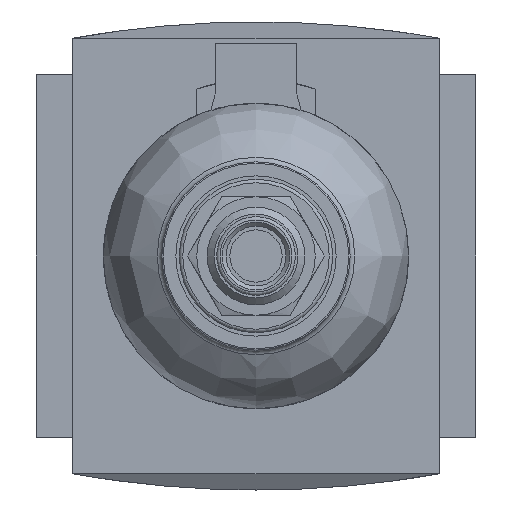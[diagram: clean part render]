
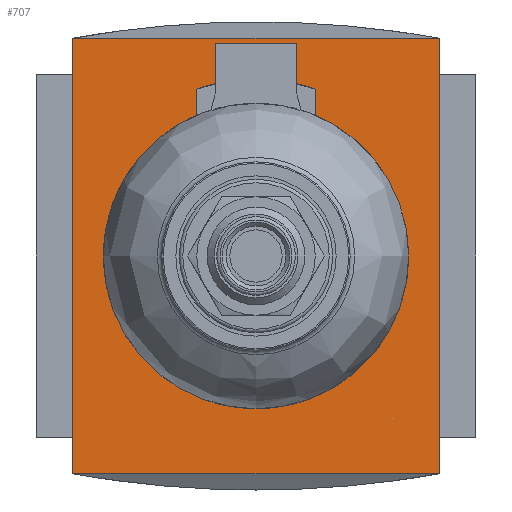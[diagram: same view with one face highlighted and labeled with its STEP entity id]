
A CAD part, front view. The second image highlights one B-rep face of the part: STEP entity #707.
In plain terms, the highlighted planar face has unit normal (0, -1, 0).
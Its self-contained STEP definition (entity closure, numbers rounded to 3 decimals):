
#707 = ADVANCED_FACE( '', ( #1529 ), #1530, .F. );
#1529 = FACE_OUTER_BOUND( '', #2492, .T. );
#1530 = PLANE( '', #2493 );
#2492 = EDGE_LOOP( '', ( #4443, #4444, #4445, #4446 ) );
#2493 = AXIS2_PLACEMENT_3D( '', #4447, #4448, #4449 );
#4443 = ORIENTED_EDGE( '', *, *, #6089, .F. );
#4444 = ORIENTED_EDGE( '', *, *, #5749, .T. );
#4445 = ORIENTED_EDGE( '', *, *, #5830, .F. );
#4446 = ORIENTED_EDGE( '', *, *, #6181, .T. );
#4447 = CARTESIAN_POINT( '', ( 0., -37.5, 116.435 ) );
#4448 = DIRECTION( '', ( 0., 1., 0. ) );
#4449 = DIRECTION( '', ( 0., 0., 1. ) );
#5749 = EDGE_CURVE( '', #6897, #6901, #6994, .T. );
#5830 = EDGE_CURVE( '', #7122, #6901, #7123, .T. );
#6089 = EDGE_CURVE( '', #6897, #7211, #7493, .T. );
#6181 = EDGE_CURVE( '', #7122, #7211, #7615, .T. );
#6897 = VERTEX_POINT( '', #8582 );
#6901 = VERTEX_POINT( '', #8587 );
#6994 = LINE( '', #8715, #8716 );
#7122 = VERTEX_POINT( '', #8882 );
#7123 = LINE( '', #8883, #8884 );
#7211 = VERTEX_POINT( '', #9022 );
#7493 = LINE( '', #9427, #9428 );
#7615 = LINE( '', #9597, #9598 );
#8582 = CARTESIAN_POINT( '', ( -26.25, -37.5, -31.25 ) );
#8587 = CARTESIAN_POINT( '', ( 26.25, -37.5, -31.25 ) );
#8715 = CARTESIAN_POINT( '', ( 0., -37.5, -31.25 ) );
#8716 = VECTOR( '', #10340, 1000. );
#8882 = CARTESIAN_POINT( '', ( 26.25, -37.5, 31.25 ) );
#8883 = CARTESIAN_POINT( '', ( 26.25, -37.5, 31.25 ) );
#8884 = VECTOR( '', #10439, 1000. );
#9022 = CARTESIAN_POINT( '', ( -26.25, -37.5, 31.25 ) );
#9427 = CARTESIAN_POINT( '', ( -26.25, -37.5, -31.25 ) );
#9428 = VECTOR( '', #10726, 1000. );
#9597 = CARTESIAN_POINT( '', ( 0., -37.5, 31.25 ) );
#9598 = VECTOR( '', #10822, 1000. );
#10340 = DIRECTION( '', ( 1., 0., 0. ) );
#10439 = DIRECTION( '', ( 0., 0., -1. ) );
#10726 = DIRECTION( '', ( 0., 0., 1. ) );
#10822 = DIRECTION( '', ( -1., 0., 0. ) );
